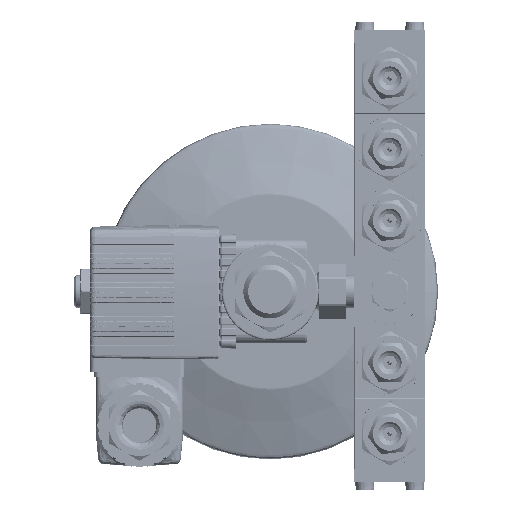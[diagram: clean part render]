
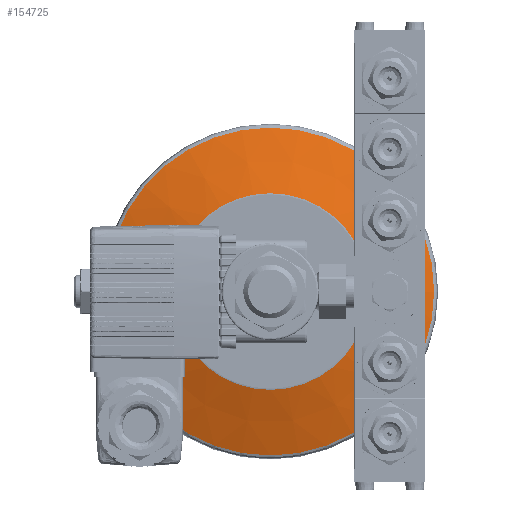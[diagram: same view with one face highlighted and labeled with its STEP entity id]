
A CAD part, left-side view. The second image highlights one B-rep face of the part: STEP entity #154725.
In plain terms, the highlighted conical face has half-angle 72.91 degrees and reference radius 50.726 mm.
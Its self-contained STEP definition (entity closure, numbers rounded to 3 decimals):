
#11745 = CONICAL_SURFACE ( 'NONE', #53391, 50.726, 1.273 ) ;
#13467 = FACE_BOUND ( 'NONE', #54911, .T. ) ;
#24742 = CARTESIAN_POINT ( 'NONE',  ( 73.464, 0., 0. ) ) ;
#53391 = AXIS2_PLACEMENT_3D ( 'NONE', #116169, #163369, #161743 ) ;
#54911 = EDGE_LOOP ( 'NONE', ( #187170 ) ) ;
#98889 = VERTEX_POINT ( 'NONE', #299330 ) ;
#116169 = CARTESIAN_POINT ( 'NONE',  ( 79.705, 0., 0. ) ) ;
#138943 = FACE_OUTER_BOUND ( 'NONE', #293403, .T. ) ;
#148598 = DIRECTION ( 'NONE',  ( 1., 0., 0. ) ) ;
#154725 = ADVANCED_FACE ( 'NONE', ( #13467, #138943 ), #11745, .T. ) ;
#154923 = DIRECTION ( 'NONE',  ( 0., -1., 0. ) ) ;
#161743 = DIRECTION ( 'NONE',  ( 0., 0., -1. ) ) ;
#163369 = DIRECTION ( 'NONE',  ( 1., 0., 0. ) ) ;
#165267 = CARTESIAN_POINT ( 'NONE',  ( 79.705, 0., 0. ) ) ;
#178104 = AXIS2_PLACEMENT_3D ( 'NONE', #24742, #148598, #154923 ) ;
#180581 = CARTESIAN_POINT ( 'NONE',  ( 79.705, 50.726, 0. ) ) ;
#184927 = DIRECTION ( 'NONE',  ( 1., 0., 0. ) ) ;
#187170 = ORIENTED_EDGE ( 'NONE', *, *, #290210, .T. ) ;
#219382 = AXIS2_PLACEMENT_3D ( 'NONE', #165267, #184927, #238671 ) ;
#226279 = EDGE_CURVE ( 'NONE', #310853, #310853, #266162, .T. ) ;
#235355 = CIRCLE ( 'NONE', #178104, 30.426 ) ;
#238671 = DIRECTION ( 'NONE',  ( 0., 1., 0. ) ) ;
#253015 = ORIENTED_EDGE ( 'NONE', *, *, #226279, .F. ) ;
#266162 = CIRCLE ( 'NONE', #219382, 50.726 ) ;
#290210 = EDGE_CURVE ( 'NONE', #98889, #98889, #235355, .T. ) ;
#293403 = EDGE_LOOP ( 'NONE', ( #253015 ) ) ;
#299330 = CARTESIAN_POINT ( 'NONE',  ( 73.464, -30.426, 0. ) ) ;
#310853 = VERTEX_POINT ( 'NONE', #180581 ) ;
